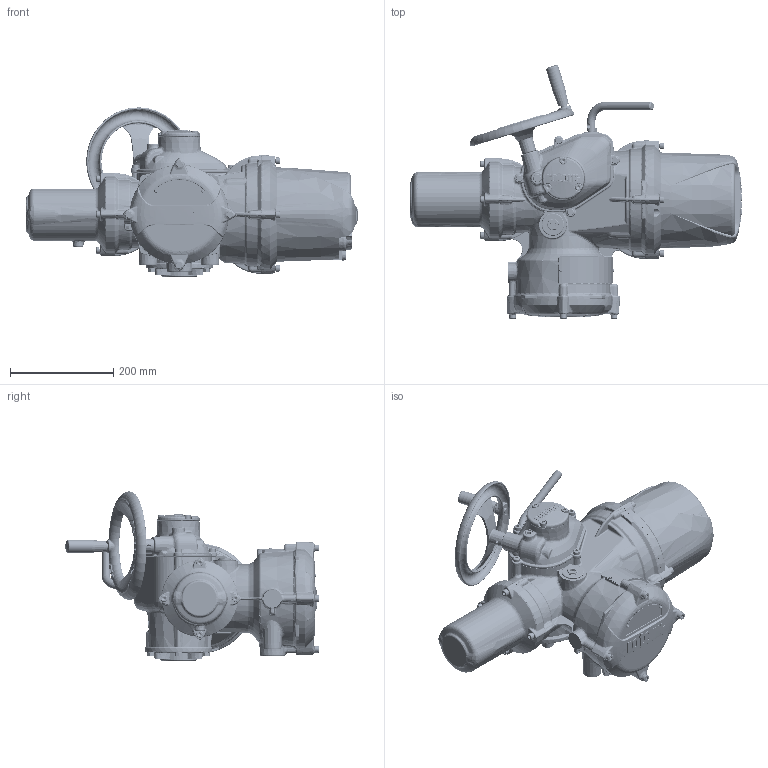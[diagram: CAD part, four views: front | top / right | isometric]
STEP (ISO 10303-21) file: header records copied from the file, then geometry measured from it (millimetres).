
FILE_DESCRIPTION(/* description */ ('Unknown'),/* implementation_level */ '2;1');
FILE_NAME(/* name */ 'IQ10_SHW_SHORT-ECVR_B3B4',/* time_stamp */ '2016-02-29T11:28:38+00:00',/* author */ ('Unknown'),/* organization */ ('Unknown'),/* preprocessor_version */ 'ST-DEVELOPER v16',/* originating_system */ 'DEX',/* authorisation */ $);
FILE_SCHEMA (('AUTOMOTIVE_DESIGN {1 0 10303 214 3 1 1}'));
Length unit declared in the file: millimetre
Products named in the file (8): IQ10_SHW_SHORT-ECVR_B3B4; II1-01-std; II1-04SHW-std; II1-02B3B4_F10-std; II0-20SHORT-std; II0-55-std; II1-04CAP-std; II1-05-std
Assembly tree (7 placements, depth 2):
  IQ10_SHW_SHORT-ECVR_B3B4
    II1-01-std
    II1-04SHW-std
    II1-02B3B4_F10-std
    II0-20SHORT-std
    II0-55-std
    II1-04CAP-std
    II1-05-std
Bounding box: 641.76 x 489.76 x 327.29 mm (x, y, z)
Volume: 13939098.8 mm3; surface area: 988727.2 mm2
Topology: 27 solids, 34 shells, 5326 faces, 13170 edges, 7764 vertices
Faces by surface type: bspline 2109, plane 1275, cylinder 787, torus 599, cone 457, sphere 99
Full cylindrical faces by diameter (mm): 1.152 x1, 3 x10, 4.917 x1, 6 x5, 6.2 x2, 6.45 x9, 6.47 x9, 6.5 x1, 6.647 x2, 7 x4, 7.6 x4, 8 x22, 8.1 x1, 8.2 x1, 8.5 x8, 9.7 x2, 10 x1, 11.78 x1, 12.1 x1, 13 x20, 13.25 x4, 15.5 x1, 16 x4, 16.186 x1, 16.5 x1, 16.75 x1, 17 x1, 17.02 x1, 24.75 x1, 24.78 x1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
Entity records: 302116 total; most frequent: CARTESIAN_POINT 160647, ORIENTED_EDGE 24642, DIRECTION 18079, EDGE_CURVE 12321, AXIS2_PLACEMENT_3D 7776, VERTEX_POINT 7538, FACE_BOUND 5871, EDGE_LOOP 5846
